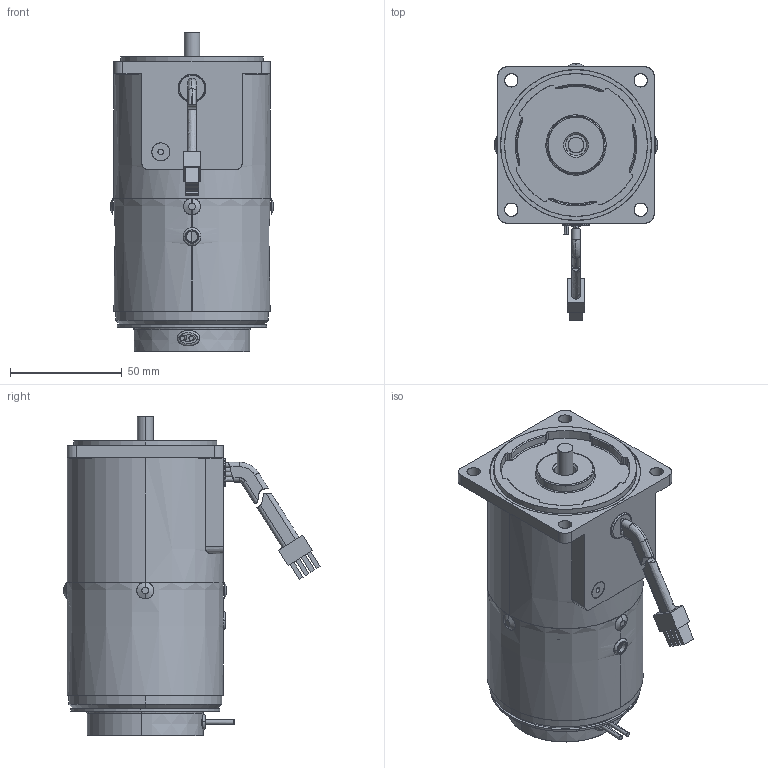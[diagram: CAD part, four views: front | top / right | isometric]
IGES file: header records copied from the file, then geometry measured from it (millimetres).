
Start section: SolidWorks IGES file using analytic representation for surfaces
Bounding box: 73 x 114.9 x 143 mm (x, y, z)
Surface area: 100399.9 mm2 (no closed solid volume)
Topology: 0 solids, 0 shells, 363 faces, 7111 edges, 7111 vertices
Faces by surface type: bspline 204, revolution 159
